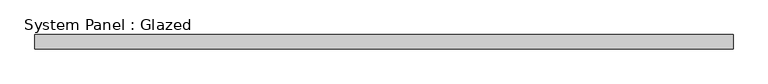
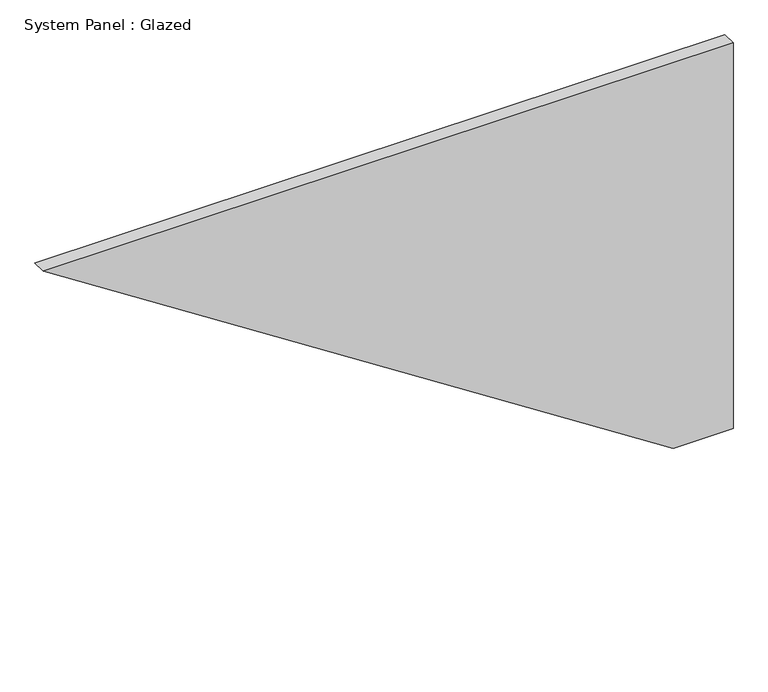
"""IFC4 building model written with IfcOpenShell, lengths in millimetres: plate geometry, System Panel : Glazed."""

from ifc_helpers import new_model, si_unit, frame, origin, place, context, project, spatial, polyline, outline, extrude, source, transform, mapped, element, save


def system_panel_glazed_1dd4cbd2(model_context):
    return source(origin(), model_context, "Body", "SweptSolid", [
        extrude(outline(polyline([(0.0, 506.7695171), (0.0, 613.5165045), (725.0, 613.5165045), (725.0, -613.5165045), (0.0, 506.7695171)])), frame((0.0, 24.5, 0.0), z_axis=(0.0, 1.0, 0.0), x_axis=(0.0, 0.0, 1.0)), (0.0, 0.0, 1.0), 25.0),
    ])


if __name__ == "__main__":
    model = new_model("IFC4")
    model_context = context("Model", 3, world=origin())
    ifc_project = project(units=[si_unit("LENGTHUNIT", "METRE", prefix="MILLI")], contexts=[model_context])
    site = spatial("IfcSite", under=ifc_project)
    building = spatial("IfcBuilding", under=site)
    placement = place(None, origin())
    system_panel_glazed_shape = system_panel_glazed_1dd4cbd2(model_context)
    element("IfcPlate", 1, ObjectType="System Panel : Glazed", at=placement, inside=building, context=model_context, shape_type="MappedRepresentation", body=[
        mapped(system_panel_glazed_shape, transform((0.0, 0.0, 0.0), x_axis=(1.0, 0.0, 0.0), y_axis=(0.0, 1.0, 0.0), z_axis=(0.0, 0.0, 1.0))),
    ])
    save(model, "model.ifc")
